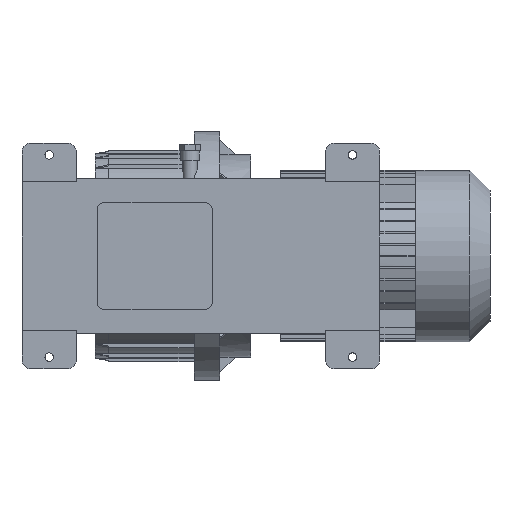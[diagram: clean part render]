
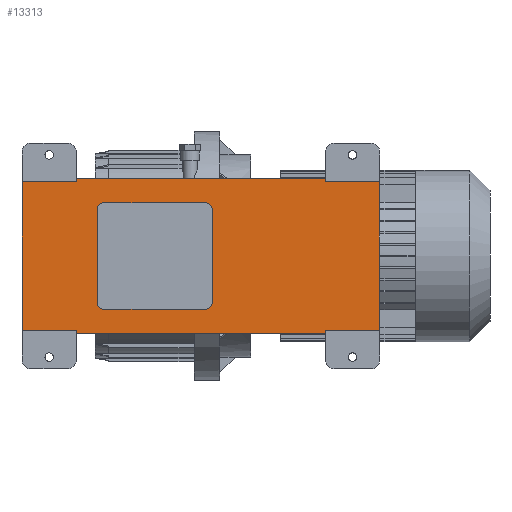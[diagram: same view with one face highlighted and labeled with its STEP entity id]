
A CAD part, front view. The second image highlights one B-rep face of the part: STEP entity #13313.
In plain terms, the highlighted planar face has unit normal (0, -1, 0).
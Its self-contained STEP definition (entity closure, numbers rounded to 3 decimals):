
#208=CIRCLE('',#13809,10.);
#210=CIRCLE('',#13812,10.);
#212=CIRCLE('',#13815,10.);
#214=CIRCLE('',#13818,10.);
#881=ORIENTED_EDGE('',*,*,#3487,.T.);
#882=ORIENTED_EDGE('',*,*,#3507,.T.);
#883=ORIENTED_EDGE('',*,*,#3541,.F.);
#884=ORIENTED_EDGE('',*,*,#3536,.T.);
#885=ORIENTED_EDGE('',*,*,#3517,.T.);
#886=ORIENTED_EDGE('',*,*,#3542,.T.);
#887=ORIENTED_EDGE('',*,*,#3526,.T.);
#888=ORIENTED_EDGE('',*,*,#3532,.T.);
#889=ORIENTED_EDGE('',*,*,#3543,.F.);
#890=ORIENTED_EDGE('',*,*,#3501,.T.);
#891=ORIENTED_EDGE('',*,*,#3496,.T.);
#892=ORIENTED_EDGE('',*,*,#3544,.T.);
#893=ORIENTED_EDGE('',*,*,#3479,.T.);
#894=ORIENTED_EDGE('',*,*,#3367,.T.);
#895=ORIENTED_EDGE('',*,*,#3478,.T.);
#896=ORIENTED_EDGE('',*,*,#3371,.T.);
#897=ORIENTED_EDGE('',*,*,#3477,.T.);
#898=ORIENTED_EDGE('',*,*,#3363,.T.);
#899=ORIENTED_EDGE('',*,*,#3480,.T.);
#900=ORIENTED_EDGE('',*,*,#3375,.T.);
#3363=EDGE_CURVE('',#4755,#4754,#208,.T.);
#3367=EDGE_CURVE('',#4759,#4758,#210,.T.);
#3371=EDGE_CURVE('',#4763,#4762,#212,.T.);
#3375=EDGE_CURVE('',#4767,#4766,#214,.T.);
#3477=EDGE_CURVE('',#4762,#4755,#5760,.T.);
#3478=EDGE_CURVE('',#4758,#4763,#5761,.T.);
#3479=EDGE_CURVE('',#4766,#4759,#5762,.T.);
#3480=EDGE_CURVE('',#4754,#4767,#5763,.T.);
#3487=EDGE_CURVE('',#4844,#4845,#5768,.T.);
#3496=EDGE_CURVE('',#4850,#4851,#5775,.T.);
#3501=EDGE_CURVE('',#4853,#4850,#5780,.T.);
#3507=EDGE_CURVE('',#4845,#4856,#5786,.T.);
#3517=EDGE_CURVE('',#4862,#4863,#5794,.T.);
#3526=EDGE_CURVE('',#4868,#4869,#5801,.T.);
#3532=EDGE_CURVE('',#4869,#4871,#5807,.T.);
#3536=EDGE_CURVE('',#4874,#4862,#5811,.T.);
#3541=EDGE_CURVE('',#4874,#4856,#5816,.T.);
#3542=EDGE_CURVE('',#4863,#4868,#5817,.T.);
#3543=EDGE_CURVE('',#4853,#4871,#5818,.T.);
#3544=EDGE_CURVE('',#4851,#4844,#5819,.T.);
#4754=VERTEX_POINT('',#17615);
#4755=VERTEX_POINT('',#17617);
#4758=VERTEX_POINT('',#17624);
#4759=VERTEX_POINT('',#17626);
#4762=VERTEX_POINT('',#17633);
#4763=VERTEX_POINT('',#17635);
#4766=VERTEX_POINT('',#17642);
#4767=VERTEX_POINT('',#17644);
#4844=VERTEX_POINT('',#17871);
#4845=VERTEX_POINT('',#17872);
#4850=VERTEX_POINT('',#17889);
#4851=VERTEX_POINT('',#17890);
#4853=VERTEX_POINT('',#17899);
#4856=VERTEX_POINT('',#17909);
#4862=VERTEX_POINT('',#17931);
#4863=VERTEX_POINT('',#17932);
#4868=VERTEX_POINT('',#17949);
#4869=VERTEX_POINT('',#17950);
#4871=VERTEX_POINT('',#17959);
#4874=VERTEX_POINT('',#17969);
#5760=LINE('',#17850,#6751);
#5761=LINE('',#17852,#6752);
#5762=LINE('',#17854,#6753);
#5763=LINE('',#17856,#6754);
#5768=LINE('',#17870,#6759);
#5775=LINE('',#17888,#6766);
#5780=LINE('',#17898,#6771);
#5786=LINE('',#17910,#6777);
#5794=LINE('',#17930,#6785);
#5801=LINE('',#17948,#6792);
#5807=LINE('',#17960,#6798);
#5811=LINE('',#17968,#6802);
#5816=LINE('',#17978,#6807);
#5817=LINE('',#17979,#6808);
#5818=LINE('',#17980,#6809);
#5819=LINE('',#17981,#6810);
#6751=VECTOR('',#14982,1000.);
#6752=VECTOR('',#14985,1000.);
#6753=VECTOR('',#14988,1000.);
#6754=VECTOR('',#14991,1000.);
#6759=VECTOR('',#15006,1000.);
#6766=VECTOR('',#15023,1000.);
#6771=VECTOR('',#15032,1000.);
#6777=VECTOR('',#15042,1000.);
#6785=VECTOR('',#15064,1000.);
#6792=VECTOR('',#15081,1000.);
#6798=VECTOR('',#15091,1000.);
#6802=VECTOR('',#15099,1000.);
#6807=VECTOR('',#15110,1000.);
#6808=VECTOR('',#15111,1000.);
#6809=VECTOR('',#15112,1000.);
#6810=VECTOR('',#15113,1000.);
#7713=EDGE_LOOP('',(#881,#882,#883,#884,#885,#886,#887,#888,#889,#890,#891,
#892));
#7714=EDGE_LOOP('',(#893,#894,#895,#896,#897,#898,#899,#900));
#8392=FACE_BOUND('',#7713,.T.);
#8393=FACE_BOUND('',#7714,.T.);
#9033=PLANE('',#13914);
#13313=ADVANCED_FACE('',(#8392,#8393),#9033,.F.);
#13809=AXIS2_PLACEMENT_3D('',#17616,#14763,#14764);
#13812=AXIS2_PLACEMENT_3D('',#17625,#14771,#14772);
#13815=AXIS2_PLACEMENT_3D('',#17634,#14779,#14780);
#13818=AXIS2_PLACEMENT_3D('',#17643,#14787,#14788);
#13914=AXIS2_PLACEMENT_3D('',#17977,#15108,#15109);
#14763=DIRECTION('',(0.,1.,0.));
#14764=DIRECTION('',(0.,0.,1.));
#14771=DIRECTION('',(0.,1.,0.));
#14772=DIRECTION('',(0.,0.,1.));
#14779=DIRECTION('',(0.,1.,0.));
#14780=DIRECTION('',(0.,0.,1.));
#14787=DIRECTION('',(0.,1.,0.));
#14788=DIRECTION('',(0.,0.,1.));
#14982=DIRECTION('',(-1.,0.,0.));
#14985=DIRECTION('',(0.,0.,-1.));
#14988=DIRECTION('',(1.,0.,0.));
#14991=DIRECTION('',(0.,0.,1.));
#15006=DIRECTION('',(1.,0.,0.));
#15023=DIRECTION('',(-1.,0.,0.));
#15032=DIRECTION('',(0.,0.,-1.));
#15042=DIRECTION('',(0.,0.,-1.));
#15064=DIRECTION('',(1.,0.,0.));
#15081=DIRECTION('',(-1.,0.,0.));
#15091=DIRECTION('',(0.,0.,1.));
#15099=DIRECTION('',(0.,0.,1.));
#15108=DIRECTION('',(0.,1.,0.));
#15109=DIRECTION('',(0.,0.,1.));
#15110=DIRECTION('',(-1.,0.,0.));
#15111=DIRECTION('',(0.,0.,1.));
#15112=DIRECTION('',(1.,0.,0.));
#15113=DIRECTION('',(0.,0.,-1.));
#17615=CARTESIAN_POINT('',(-154.,0.,-69.));
#17616=CARTESIAN_POINT('',(-144.,0.,-69.));
#17617=CARTESIAN_POINT('',(-144.,0.,-79.));
#17624=CARTESIAN_POINT('',(17.,0.,69.));
#17625=CARTESIAN_POINT('',(7.,0.,69.));
#17626=CARTESIAN_POINT('',(7.,0.,79.));
#17633=CARTESIAN_POINT('',(7.,0.,-79.));
#17634=CARTESIAN_POINT('',(7.,0.,-69.));
#17635=CARTESIAN_POINT('',(17.,0.,-69.));
#17642=CARTESIAN_POINT('',(-144.,0.,79.));
#17643=CARTESIAN_POINT('',(-144.,0.,69.));
#17644=CARTESIAN_POINT('',(-154.,0.,69.));
#17850=CARTESIAN_POINT('',(17.,0.,-79.));
#17852=CARTESIAN_POINT('',(17.,0.,79.));
#17854=CARTESIAN_POINT('',(-154.,0.,79.));
#17856=CARTESIAN_POINT('',(-154.,0.,-79.));
#17870=CARTESIAN_POINT('',(-265.,0.,-110.));
#17871=CARTESIAN_POINT('',(-265.,0.,-110.));
#17872=CARTESIAN_POINT('',(-185.,0.,-110.));
#17888=CARTESIAN_POINT('',(-185.,0.,110.));
#17889=CARTESIAN_POINT('',(-185.,0.,110.));
#17890=CARTESIAN_POINT('',(-265.,0.,110.));
#17898=CARTESIAN_POINT('',(-185.,0.,167.5));
#17899=CARTESIAN_POINT('',(-185.,0.,115.));
#17909=CARTESIAN_POINT('',(-185.,0.,-115.));
#17910=CARTESIAN_POINT('',(-185.,0.,-110.));
#17930=CARTESIAN_POINT('',(185.,0.,-110.));
#17931=CARTESIAN_POINT('',(185.,0.,-110.));
#17932=CARTESIAN_POINT('',(265.,0.,-110.));
#17948=CARTESIAN_POINT('',(185.,0.,110.));
#17949=CARTESIAN_POINT('',(265.,0.,110.));
#17950=CARTESIAN_POINT('',(185.,0.,110.));
#17959=CARTESIAN_POINT('',(185.,0.,115.));
#17960=CARTESIAN_POINT('',(185.,0.,110.));
#17968=CARTESIAN_POINT('',(185.,0.,-167.5));
#17969=CARTESIAN_POINT('',(185.,0.,-115.));
#17977=CARTESIAN_POINT('',(0.,0.,0.));
#17978=CARTESIAN_POINT('',(265.,0.,-115.));
#17979=CARTESIAN_POINT('',(265.,0.,0.));
#17980=CARTESIAN_POINT('',(-265.,0.,115.));
#17981=CARTESIAN_POINT('',(-265.,0.,0.));
